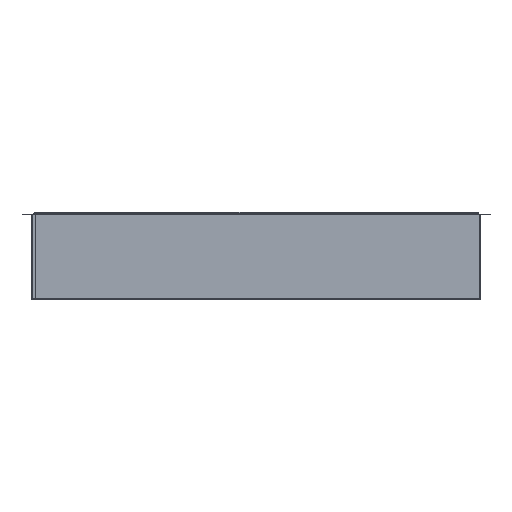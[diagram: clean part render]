
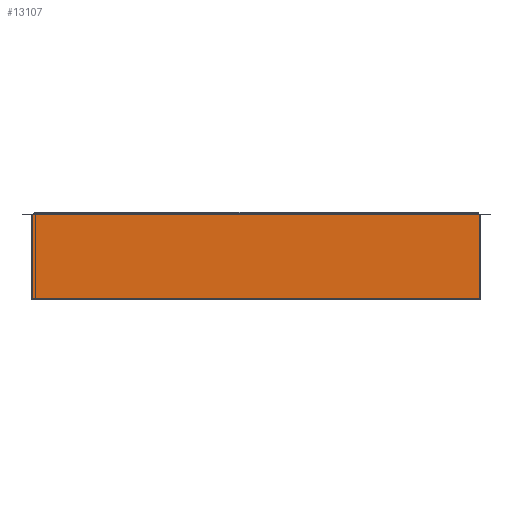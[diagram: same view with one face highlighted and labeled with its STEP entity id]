
A CAD part, front view. The second image highlights one B-rep face of the part: STEP entity #13107.
In plain terms, the highlighted planar face has unit normal (0, -1, 0) as drawn and (0, 0, -1) by its records, which use the part's own axes.
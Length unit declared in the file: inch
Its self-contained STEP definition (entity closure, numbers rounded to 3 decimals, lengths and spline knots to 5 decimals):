
#32 = ORIENTED_EDGE ( 'NONE', *, *, #9408, .F. ) ;
#172 = VECTOR ( 'NONE', #12350, 39.37008 ) ;
#372 = VECTOR ( 'NONE', #7797, 39.37008 ) ;
#433 = VERTEX_POINT ( 'NONE', #9726 ) ;
#482 = DIRECTION ( 'NONE',  ( 0., 1., 0. ) ) ;
#592 = EDGE_CURVE ( 'NONE', #1879, #433, #9424, .T. ) ;
#657 = ORIENTED_EDGE ( 'NONE', *, *, #10476, .F. ) ;
#759 = AXIS2_PLACEMENT_3D ( 'NONE', #2359, #9911, #3446 ) ;
#773 = VERTEX_POINT ( 'NONE', #13403 ) ;
#905 = CARTESIAN_POINT ( 'NONE',  ( 84.82796, 30.6517, 0. ) ) ;
#1010 = EDGE_LOOP ( 'NONE', ( #2192, #13140, #657, #9220, #32, #5893, #11803, #8481, #12580, #6578, #5465, #2139 ) ) ;
#1048 = EDGE_CURVE ( 'NONE', #12318, #8697, #2086, .T. ) ;
#1133 = EDGE_CURVE ( 'NONE', #12318, #3765, #5131, .T. ) ;
#1182 = VERTEX_POINT ( 'NONE', #12039 ) ;
#1324 = CARTESIAN_POINT ( 'NONE',  ( 92.69839, -11.26114, 0. ) ) ;
#1433 = LINE ( 'NONE', #6946, #12586 ) ;
#1584 = CARTESIAN_POINT ( 'NONE',  ( 84.82796, -12.34731, 0. ) ) ;
#1879 = VERTEX_POINT ( 'NONE', #11781 ) ;
#2086 = LINE ( 'NONE', #6405, #10374 ) ;
#2111 = CARTESIAN_POINT ( 'NONE',  ( 84.82796, 31.73787, 0. ) ) ;
#2139 = ORIENTED_EDGE ( 'NONE', *, *, #7930, .F. ) ;
#2192 = ORIENTED_EDGE ( 'NONE', *, *, #8960, .F. ) ;
#2359 = CARTESIAN_POINT ( 'NONE',  ( 92.69839, 30.57935, 0. ) ) ;
#3330 = CARTESIAN_POINT ( 'NONE',  ( 92.69839, -11.26114, 0. ) ) ;
#3446 = DIRECTION ( 'NONE',  ( -1., 0., 0. ) ) ;
#3571 = LINE ( 'NONE', #6810, #11866 ) ;
#3765 = VERTEX_POINT ( 'NONE', #11584 ) ;
#3885 = VECTOR ( 'NONE', #6110, 39.37008 ) ;
#3944 = DIRECTION ( 'NONE',  ( -1., 0., 0. ) ) ;
#4036 = EDGE_CURVE ( 'NONE', #1182, #10411, #12873, .T. ) ;
#4119 = VECTOR ( 'NONE', #10756, 39.37008 ) ;
#4360 = CARTESIAN_POINT ( 'NONE',  ( 83.69856, -11.18879, 0. ) ) ;
#4388 = EDGE_CURVE ( 'NONE', #8697, #7851, #12855, .T. ) ;
#5056 = VECTOR ( 'NONE', #5460, 39.37008 ) ;
#5131 = LINE ( 'NONE', #3330, #5464 ) ;
#5386 = VERTEX_POINT ( 'NONE', #10595 ) ;
#5460 = DIRECTION ( 'NONE',  ( 1., 0., 0. ) ) ;
#5464 = VECTOR ( 'NONE', #10896, 39.37008 ) ;
#5465 = ORIENTED_EDGE ( 'NONE', *, *, #11808, .F. ) ;
#5580 = LINE ( 'NONE', #1584, #172 ) ;
#5893 = ORIENTED_EDGE ( 'NONE', *, *, #6585, .F. ) ;
#6110 = DIRECTION ( 'NONE',  ( 1., 0., 0. ) ) ;
#6166 = CARTESIAN_POINT ( 'NONE',  ( 84.81591, 30.57935, 0. ) ) ;
#6405 = CARTESIAN_POINT ( 'NONE',  ( 92.69839, -12.34731, 0. ) ) ;
#6542 = VECTOR ( 'NONE', #3944, 39.37008 ) ;
#6578 = ORIENTED_EDGE ( 'NONE', *, *, #1133, .T. ) ;
#6585 = EDGE_CURVE ( 'NONE', #5386, #773, #3571, .T. ) ;
#6697 = FACE_OUTER_BOUND ( 'NONE', #1010, .T. ) ;
#6810 = CARTESIAN_POINT ( 'NONE',  ( 93.47964, 30.57935, 0. ) ) ;
#6946 = CARTESIAN_POINT ( 'NONE',  ( 92.69839, 31.73787, 0. ) ) ;
#7566 = CARTESIAN_POINT ( 'NONE',  ( 84.81591, -11.18879, 0. ) ) ;
#7797 = DIRECTION ( 'NONE',  ( -1., 0., 0. ) ) ;
#7851 = VERTEX_POINT ( 'NONE', #12883 ) ;
#7930 = EDGE_CURVE ( 'NONE', #11134, #10391, #13698, .T. ) ;
#8481 = ORIENTED_EDGE ( 'NONE', *, *, #4388, .F. ) ;
#8697 = VERTEX_POINT ( 'NONE', #9982 ) ;
#8960 = EDGE_CURVE ( 'NONE', #433, #11134, #13290, .T. ) ;
#9220 = ORIENTED_EDGE ( 'NONE', *, *, #4036, .F. ) ;
#9408 = EDGE_CURVE ( 'NONE', #773, #1182, #1433, .T. ) ;
#9415 = DIRECTION ( 'NONE',  ( 0., -1., 0. ) ) ;
#9424 = LINE ( 'NONE', #11592, #6542 ) ;
#9636 = EDGE_CURVE ( 'NONE', #5386, #7851, #13104, .T. ) ;
#9726 = CARTESIAN_POINT ( 'NONE',  ( 84.81591, 30.57935, 0. ) ) ;
#9872 = PLANE ( 'NONE',  #759 ) ;
#9911 = DIRECTION ( 'NONE',  ( 0., 0., -1. ) ) ;
#9982 = CARTESIAN_POINT ( 'NONE',  ( 92.69839, -11.18879, 0. ) ) ;
#10070 = DIRECTION ( 'NONE',  ( -1., 0., 0. ) ) ;
#10199 = LINE ( 'NONE', #2111, #4119 ) ;
#10213 = VECTOR ( 'NONE', #12717, 39.37008 ) ;
#10374 = VECTOR ( 'NONE', #12898, 39.37008 ) ;
#10391 = VERTEX_POINT ( 'NONE', #10542 ) ;
#10405 = VECTOR ( 'NONE', #9415, 39.37008 ) ;
#10411 = VERTEX_POINT ( 'NONE', #905 ) ;
#10476 = EDGE_CURVE ( 'NONE', #10411, #1879, #10199, .T. ) ;
#10542 = CARTESIAN_POINT ( 'NONE',  ( 84.82796, -11.18879, 0. ) ) ;
#10555 = CARTESIAN_POINT ( 'NONE',  ( 92.71154, 30.57935, 0. ) ) ;
#10595 = CARTESIAN_POINT ( 'NONE',  ( 92.71154, 30.57935, 0. ) ) ;
#10756 = DIRECTION ( 'NONE',  ( 0., -1., 0. ) ) ;
#10896 = DIRECTION ( 'NONE',  ( -1., 0., 0. ) ) ;
#11134 = VERTEX_POINT ( 'NONE', #7566 ) ;
#11584 = CARTESIAN_POINT ( 'NONE',  ( 84.82796, -11.26114, 0. ) ) ;
#11592 = CARTESIAN_POINT ( 'NONE',  ( 84.82796, 30.57935, 0. ) ) ;
#11781 = CARTESIAN_POINT ( 'NONE',  ( 84.82796, 30.57935, 0. ) ) ;
#11803 = ORIENTED_EDGE ( 'NONE', *, *, #9636, .T. ) ;
#11808 = EDGE_CURVE ( 'NONE', #10391, #3765, #5580, .T. ) ;
#11866 = VECTOR ( 'NONE', #10070, 39.37008 ) ;
#12039 = CARTESIAN_POINT ( 'NONE',  ( 92.69839, 30.6517, 0. ) ) ;
#12318 = VERTEX_POINT ( 'NONE', #1324 ) ;
#12350 = DIRECTION ( 'NONE',  ( 0., -1., 0. ) ) ;
#12580 = ORIENTED_EDGE ( 'NONE', *, *, #1048, .F. ) ;
#12586 = VECTOR ( 'NONE', #482, 39.37008 ) ;
#12717 = DIRECTION ( 'NONE',  ( 0., -1., 0. ) ) ;
#12855 = LINE ( 'NONE', #13680, #3885 ) ;
#12873 = LINE ( 'NONE', #13202, #372 ) ;
#12883 = CARTESIAN_POINT ( 'NONE',  ( 92.71154, -11.18879, 0. ) ) ;
#12898 = DIRECTION ( 'NONE',  ( 0., 1., 0. ) ) ;
#13104 = LINE ( 'NONE', #10555, #10213 ) ;
#13107 = ADVANCED_FACE ( 'NONE', ( #6697 ), #9872, .T. ) ;
#13140 = ORIENTED_EDGE ( 'NONE', *, *, #592, .F. ) ;
#13202 = CARTESIAN_POINT ( 'NONE',  ( 92.69839, 30.6517, 0. ) ) ;
#13290 = LINE ( 'NONE', #6166, #10405 ) ;
#13403 = CARTESIAN_POINT ( 'NONE',  ( 92.69839, 30.57935, 0. ) ) ;
#13680 = CARTESIAN_POINT ( 'NONE',  ( 92.69839, -11.18879, 0. ) ) ;
#13698 = LINE ( 'NONE', #4360, #5056 ) ;
